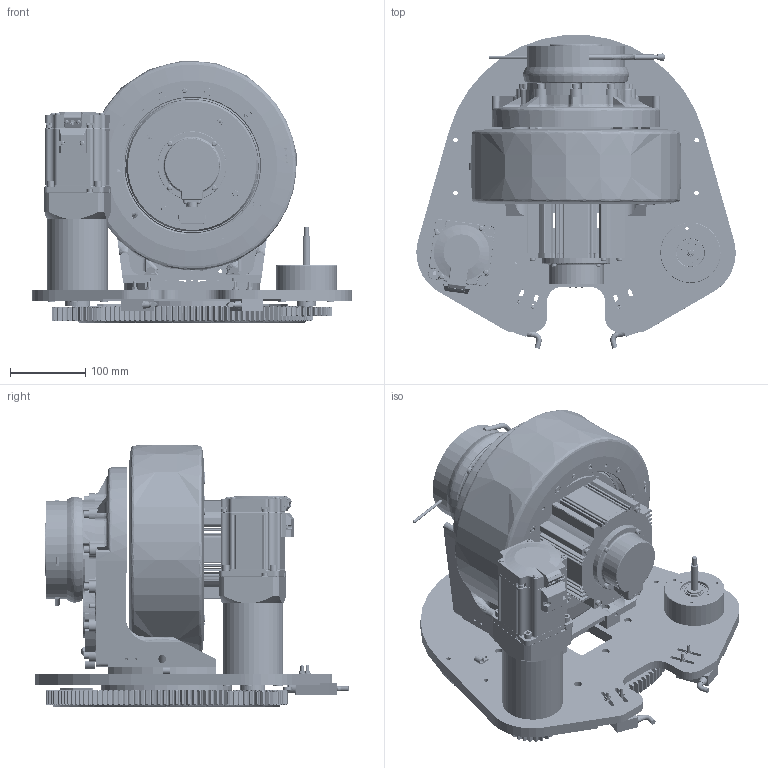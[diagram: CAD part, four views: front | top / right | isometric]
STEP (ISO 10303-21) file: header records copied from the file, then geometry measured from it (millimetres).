
FILE_DESCRIPTION (( 'STEP AP214' ), '1' );
FILE_NAME ('TEC-280P1600S-48HS.STEP', '2021-08-09T10:04:13', ( 'admin' ), ( 'Microsoft' ), 'SwSTEP 2.0', 'SolidWorks 2012', '' );
FILE_SCHEMA (( 'AUTOMOTIVE_DESIGN' ));
Length unit declared in the file: millimetre
Products named in the file (1): TEC-280P1600S-48HS
Bounding box: 423.39 x 416.08 x 348.15 mm (x, y, z)
Surface area: 1146300.9 mm2 (no closed solid volume)
Topology: 0 solids, 236 shells, 3384 faces, 12208 edges, 8660 vertices
Faces by surface type: cylinder 1431, plane 877, bspline 604, cone 379, torus 90, sphere 3
Entity records: 200478 total; most frequent: CARTESIAN_POINT 64517, DIRECTION 19974, ORIENTED_EDGE 18939, EDGE_CURVE 12185, VERTEX_POINT 8660, AXIS2_PLACEMENT_3D 7564, LINE 4846, VECTOR 4846
